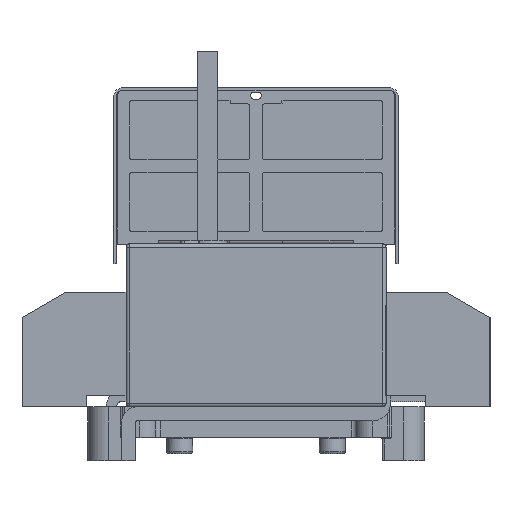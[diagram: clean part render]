
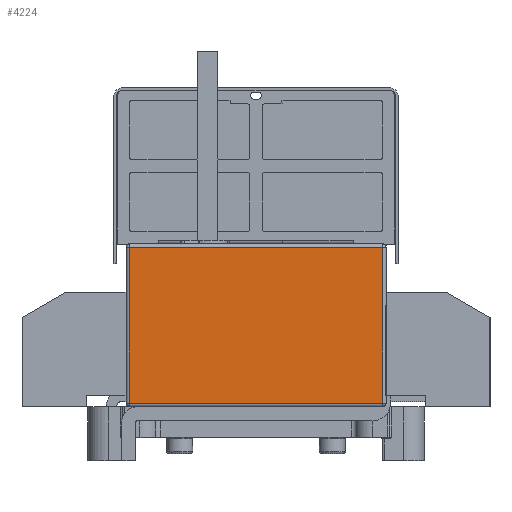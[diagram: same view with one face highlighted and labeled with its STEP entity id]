
A CAD part, left-side view. The second image highlights one B-rep face of the part: STEP entity #4224.
In plain terms, the highlighted planar face has unit normal (-1, 0, 0).
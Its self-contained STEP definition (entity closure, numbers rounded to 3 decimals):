
#4224=ADVANCED_FACE('',(#6951),#5355,.F.);
#5355=PLANE('',#35892);
#6951=FACE_OUTER_BOUND('',#8990,.T.);
#8990=EDGE_LOOP('',(#17356,#17357,#17358,#17359));
#17356=ORIENTED_EDGE('',*,*,#26211,.T.);
#17357=ORIENTED_EDGE('',*,*,#26192,.T.);
#17358=ORIENTED_EDGE('',*,*,#26203,.T.);
#17359=ORIENTED_EDGE('',*,*,#26181,.T.);
#21617=VERTEX_POINT('',#57589);
#21621=VERTEX_POINT('',#57600);
#21626=VERTEX_POINT('',#57617);
#21627=VERTEX_POINT('',#57621);
#26181=EDGE_CURVE('',#21621,#21617,#29591,.T.);
#26192=EDGE_CURVE('',#21627,#21626,#29596,.T.);
#26203=EDGE_CURVE('',#21626,#21621,#29599,.T.);
#26211=EDGE_CURVE('',#21617,#21627,#29607,.T.);
#29591=LINE('',#57603,#32941);
#29596=LINE('',#57624,#32946);
#29599=LINE('',#57647,#32949);
#29607=LINE('',#57658,#32957);
#32941=VECTOR('',#44772,1.);
#32946=VECTOR('',#44797,1.);
#32949=VECTOR('',#44826,1.);
#32957=VECTOR('',#44840,1.);
#35892=AXIS2_PLACEMENT_3D('',#57662,#44846,#44847);
#44772=DIRECTION('',(0.,1.,0.));
#44797=DIRECTION('',(0.,-1.,0.));
#44826=DIRECTION('',(0.,0.,1.));
#44840=DIRECTION('',(0.,0.,-1.));
#44846=DIRECTION('',(1.,0.,0.));
#44847=DIRECTION('',(0.,1.,0.));
#57589=CARTESIAN_POINT('',(-150.,73.,92.));
#57600=CARTESIAN_POINT('',(-150.,-73.,92.));
#57603=CARTESIAN_POINT('',(-150.,73.,92.));
#57617=CARTESIAN_POINT('',(-150.,-73.,2.));
#57621=CARTESIAN_POINT('',(-150.,73.,2.));
#57624=CARTESIAN_POINT('',(-150.,75.,2.));
#57647=CARTESIAN_POINT('',(-150.,-73.,94.));
#57658=CARTESIAN_POINT('',(-150.,73.,94.));
#57662=CARTESIAN_POINT('',(-150.,75.,94.));
